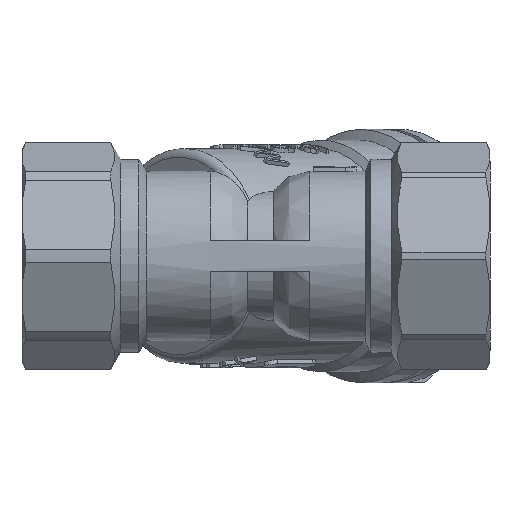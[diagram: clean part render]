
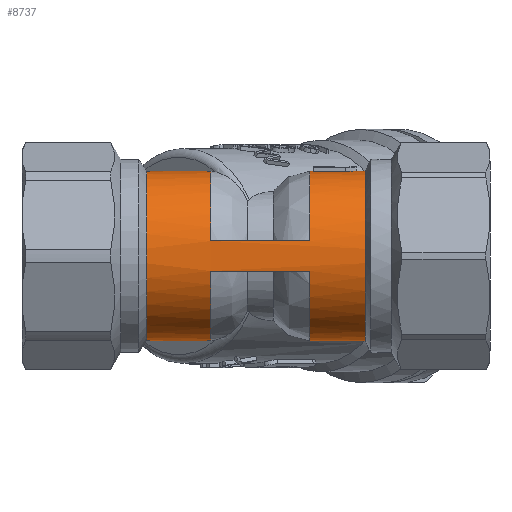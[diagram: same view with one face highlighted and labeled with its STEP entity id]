
A CAD part, front view. The second image highlights one B-rep face of the part: STEP entity #8737.
In plain terms, the highlighted cylindrical face has radius 9.874 mm (diameter 19.749 mm), a partial arc.
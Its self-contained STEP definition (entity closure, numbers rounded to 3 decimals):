
#231=FACE_BOUND('',#1427,.T.);
#257=ELLIPSE('',#9048,13.965,9.874);
#260=ELLIPSE('',#9052,13.965,9.874);
#269=CIRCLE('',#8999,9.874);
#270=CIRCLE('',#9002,9.874);
#271=CIRCLE('',#9004,9.874);
#279=CIRCLE('',#9020,9.874);
#280=CIRCLE('',#9021,9.874);
#283=CIRCLE('',#9025,9.874);
#314=CIRCLE('',#9085,9.874);
#318=CIRCLE('',#9091,9.874);
#319=CIRCLE('',#9092,9.874);
#474=CYLINDRICAL_SURFACE('',#9090,9.874);
#900=FACE_OUTER_BOUND('',#1426,.T.);
#1426=EDGE_LOOP('',(#7237,#7238,#7239,#7240,#7241,#7242,#7243,#7244,#7245,
#7246,#7247,#7248));
#1427=EDGE_LOOP('',(#7249,#7250,#7251,#7252,#7253,#7254,#7255));
#1879=LINE('',#19054,#2271);
#1885=LINE('',#19109,#2277);
#1889=LINE('',#19188,#2281);
#1890=LINE('',#19207,#2282);
#2271=VECTOR('',#9707,10.);
#2277=VECTOR('',#9723,10.);
#2281=VECTOR('',#9751,10.);
#2282=VECTOR('',#9754,10.);
#2493=B_SPLINE_CURVE_WITH_KNOTS('',3,(#11862,#11863,#11864,#11865,#11866,
#11867),.UNSPECIFIED.,.F.,.F.,(4,2,4),(3.197,3.417,
3.977),.UNSPECIFIED.);
#2500=B_SPLINE_CURVE_WITH_KNOTS('',3,(#11905,#11906,#11907,#11908,#11909,
#11910),.UNSPECIFIED.,.F.,.F.,(4,2,4),(1.31,1.87,
2.089),.UNSPECIFIED.);
#2951=B_SPLINE_CURVE_WITH_KNOTS('',3,(#19077,#19078,#19079,#19080),
 .UNSPECIFIED.,.F.,.F.,(4,4),(0.,0.099),
 .UNSPECIFIED.);
#2952=B_SPLINE_CURVE_WITH_KNOTS('',3,(#19099,#19100,#19101,#19102),
 .UNSPECIFIED.,.F.,.F.,(4,4),(0.,0.099),
 .UNSPECIFIED.);
#3209=VERTEX_POINT('',#11850);
#3210=VERTEX_POINT('',#11861);
#3217=VERTEX_POINT('',#11899);
#3218=VERTEX_POINT('',#11904);
#3673=VERTEX_POINT('',#19047);
#3674=VERTEX_POINT('',#19048);
#3675=VERTEX_POINT('',#19053);
#3676=VERTEX_POINT('',#19057);
#3677=VERTEX_POINT('',#19076);
#3678=VERTEX_POINT('',#19098);
#3679=VERTEX_POINT('',#19105);
#3694=VERTEX_POINT('',#19156);
#3696=VERTEX_POINT('',#19173);
#3697=VERTEX_POINT('',#19190);
#3699=VERTEX_POINT('',#19206);
#3701=VERTEX_POINT('',#19234);
#3702=VERTEX_POINT('',#19251);
#3720=VERTEX_POINT('',#19391);
#3725=VERTEX_POINT('',#19409);
#4165=EDGE_CURVE('',#3210,#3209,#2493,.T.);
#4173=EDGE_CURVE('',#3218,#3217,#2500,.T.);
#4851=EDGE_CURVE('',#3673,#3674,#269,.T.);
#4854=EDGE_CURVE('',#3675,#3673,#1879,.T.);
#4856=EDGE_CURVE('',#3676,#3675,#270,.T.);
#4858=EDGE_CURVE('',#3677,#3676,#2951,.T.);
#4860=EDGE_CURVE('',#3678,#3677,#2952,.T.);
#4862=EDGE_CURVE('',#3679,#3678,#271,.T.);
#4864=EDGE_CURVE('',#3674,#3679,#1885,.T.);
#4882=EDGE_CURVE('',#3696,#3694,#1889,.T.);
#4884=EDGE_CURVE('',#3697,#3699,#1890,.T.);
#4889=EDGE_CURVE('',#3697,#3701,#279,.T.);
#4890=EDGE_CURVE('',#3702,#3694,#280,.T.);
#4894=EDGE_CURVE('',#3699,#3209,#283,.T.);
#4920=EDGE_CURVE('',#3720,#3702,#257,.T.);
#4927=EDGE_CURVE('',#3701,#3725,#260,.T.);
#4974=EDGE_CURVE('',#3720,#3725,#314,.T.);
#4981=EDGE_CURVE('',#3218,#3696,#318,.T.);
#4982=EDGE_CURVE('',#3217,#3210,#319,.T.);
#7237=ORIENTED_EDGE('',*,*,#4927,.T.);
#7238=ORIENTED_EDGE('',*,*,#4974,.F.);
#7239=ORIENTED_EDGE('',*,*,#4920,.T.);
#7240=ORIENTED_EDGE('',*,*,#4890,.T.);
#7241=ORIENTED_EDGE('',*,*,#4882,.F.);
#7242=ORIENTED_EDGE('',*,*,#4981,.F.);
#7243=ORIENTED_EDGE('',*,*,#4173,.T.);
#7244=ORIENTED_EDGE('',*,*,#4982,.T.);
#7245=ORIENTED_EDGE('',*,*,#4165,.T.);
#7246=ORIENTED_EDGE('',*,*,#4894,.F.);
#7247=ORIENTED_EDGE('',*,*,#4884,.F.);
#7248=ORIENTED_EDGE('',*,*,#4889,.T.);
#7249=ORIENTED_EDGE('',*,*,#4851,.T.);
#7250=ORIENTED_EDGE('',*,*,#4864,.T.);
#7251=ORIENTED_EDGE('',*,*,#4862,.T.);
#7252=ORIENTED_EDGE('',*,*,#4860,.T.);
#7253=ORIENTED_EDGE('',*,*,#4858,.T.);
#7254=ORIENTED_EDGE('',*,*,#4856,.T.);
#7255=ORIENTED_EDGE('',*,*,#4854,.T.);
#8737=ADVANCED_FACE('',(#900,#231),#474,.T.);
#8999=AXIS2_PLACEMENT_3D('',#19049,#9701,#9702);
#9002=AXIS2_PLACEMENT_3D('',#19058,#9711,#9712);
#9004=AXIS2_PLACEMENT_3D('',#19106,#9718,#9719);
#9020=AXIS2_PLACEMENT_3D('',#19241,#9758,#9759);
#9021=AXIS2_PLACEMENT_3D('',#19252,#9760,#9761);
#9025=AXIS2_PLACEMENT_3D('',#19277,#9768,#9769);
#9048=AXIS2_PLACEMENT_3D('',#19392,#9817,#9818);
#9052=AXIS2_PLACEMENT_3D('',#19413,#9825,#9826);
#9085=AXIS2_PLACEMENT_3D('',#19548,#9899,#9900);
#9090=AXIS2_PLACEMENT_3D('',#19575,#9910,#9911);
#9091=AXIS2_PLACEMENT_3D('',#19576,#9912,#9913);
#9092=AXIS2_PLACEMENT_3D('',#19577,#9914,#9915);
#9701=DIRECTION('center_axis',(-1.,0.,0.));
#9702=DIRECTION('ref_axis',(0.,-1.,0.));
#9707=DIRECTION('',(-1.,0.,0.));
#9711=DIRECTION('center_axis',(-1.,0.,0.));
#9712=DIRECTION('ref_axis',(0.,-1.,0.));
#9718=DIRECTION('center_axis',(-1.,0.,0.));
#9719=DIRECTION('ref_axis',(0.,-1.,0.));
#9723=DIRECTION('',(1.,0.,0.));
#9751=DIRECTION('',(-1.,0.,0.));
#9754=DIRECTION('',(1.,0.,0.));
#9758=DIRECTION('center_axis',(-1.,0.,0.));
#9759=DIRECTION('ref_axis',(0.,0.,1.));
#9760=DIRECTION('center_axis',(-1.,0.,0.));
#9761=DIRECTION('ref_axis',(0.,0.,1.));
#9768=DIRECTION('center_axis',(-1.,0.,0.));
#9769=DIRECTION('ref_axis',(0.,0.,1.));
#9817=DIRECTION('center_axis',(-0.707,-0.707,0.));
#9818=DIRECTION('ref_axis',(0.707,-0.707,0.));
#9825=DIRECTION('center_axis',(-0.707,-0.707,0.));
#9826=DIRECTION('ref_axis',(0.707,-0.707,0.));
#9899=DIRECTION('center_axis',(-1.,0.,0.));
#9900=DIRECTION('ref_axis',(0.,0.,1.));
#9910=DIRECTION('center_axis',(-1.,0.,0.));
#9911=DIRECTION('ref_axis',(0.,-1.,0.));
#9912=DIRECTION('center_axis',(-1.,0.,0.));
#9913=DIRECTION('ref_axis',(0.,0.,1.));
#9914=DIRECTION('center_axis',(-1.,0.,0.));
#9915=DIRECTION('ref_axis',(0.,0.,1.));
#11850=CARTESIAN_POINT('',(-21.,5.268,8.352));
#11861=CARTESIAN_POINT('',(-14.5,8.615,4.826));
#11862=CARTESIAN_POINT('Ctrl Pts',(-14.5,8.615,4.826));
#11863=CARTESIAN_POINT('Ctrl Pts',(-15.064,8.34,5.316));
#11864=CARTESIAN_POINT('Ctrl Pts',(-15.668,8.043,5.746));
#11865=CARTESIAN_POINT('Ctrl Pts',(-17.692,7.034,7.028));
#11866=CARTESIAN_POINT('Ctrl Pts',(-19.33,6.195,7.767));
#11867=CARTESIAN_POINT('Ctrl Pts',(-21.,5.268,8.352));
#11899=CARTESIAN_POINT('',(-14.5,8.615,-4.826));
#11904=CARTESIAN_POINT('',(-21.,5.268,-8.352));
#11905=CARTESIAN_POINT('Ctrl Pts',(-21.,5.268,-8.352));
#11906=CARTESIAN_POINT('Ctrl Pts',(-19.33,6.195,-7.767));
#11907=CARTESIAN_POINT('Ctrl Pts',(-17.692,7.034,-7.028));
#11908=CARTESIAN_POINT('Ctrl Pts',(-15.668,8.043,-5.746));
#11909=CARTESIAN_POINT('Ctrl Pts',(-15.064,8.34,-5.316));
#11910=CARTESIAN_POINT('Ctrl Pts',(-14.5,8.615,-4.826));
#19047=CARTESIAN_POINT('',(-20.556,-0.637,9.854));
#19048=CARTESIAN_POINT('',(-20.556,0.524,9.86));
#19049=CARTESIAN_POINT('Origin',(-20.556,0.,
0.));
#19053=CARTESIAN_POINT('',(-16.806,-0.637,9.854));
#19054=CARTESIAN_POINT('',(-36.25,-0.637,9.854));
#19057=CARTESIAN_POINT('',(-16.806,-1.034,9.82));
#19058=CARTESIAN_POINT('Origin',(-16.806,0.,
0.));
#19076=CARTESIAN_POINT('',(-15.556,-0.056,9.874));
#19077=CARTESIAN_POINT('Ctrl Pts',(-15.556,-0.056,
9.874));
#19078=CARTESIAN_POINT('Ctrl Pts',(-15.973,-0.383,
9.872));
#19079=CARTESIAN_POINT('Ctrl Pts',(-16.389,-0.71,
9.854));
#19080=CARTESIAN_POINT('Ctrl Pts',(-16.806,-1.034,
9.82));
#19098=CARTESIAN_POINT('',(-16.806,0.922,9.831));
#19099=CARTESIAN_POINT('Ctrl Pts',(-16.806,0.922,
9.831));
#19100=CARTESIAN_POINT('Ctrl Pts',(-16.389,0.597,
9.862));
#19101=CARTESIAN_POINT('Ctrl Pts',(-15.973,0.27,
9.876));
#19102=CARTESIAN_POINT('Ctrl Pts',(-15.556,-0.056,
9.874));
#19105=CARTESIAN_POINT('',(-16.806,0.524,9.86));
#19106=CARTESIAN_POINT('Origin',(-16.806,0.,
0.));
#19109=CARTESIAN_POINT('',(-36.25,0.524,9.86));
#19156=CARTESIAN_POINT('',(-32.5,-9.718,-1.753));
#19173=CARTESIAN_POINT('',(-21.,-9.718,-1.753));
#19188=CARTESIAN_POINT('',(-9.921,-9.718,-1.753));
#19190=CARTESIAN_POINT('',(-32.5,-9.719,1.747));
#19206=CARTESIAN_POINT('',(-21.,-9.719,1.747));
#19207=CARTESIAN_POINT('',(-9.921,-9.719,1.747));
#19234=CARTESIAN_POINT('',(-32.5,-0.555,9.859));
#19241=CARTESIAN_POINT('Origin',(-32.5,0.,0.));
#19251=CARTESIAN_POINT('',(-32.5,-0.555,-9.859));
#19252=CARTESIAN_POINT('Origin',(-32.5,0.,0.));
#19277=CARTESIAN_POINT('Origin',(-21.,0.,0.));
#19391=CARTESIAN_POINT('',(-40.,6.944,-7.02));
#19392=CARTESIAN_POINT('Origin',(-33.055,0.,
0.));
#19409=CARTESIAN_POINT('',(-40.,6.944,7.02));
#19413=CARTESIAN_POINT('Origin',(-33.055,0.,
0.));
#19548=CARTESIAN_POINT('Origin',(-40.,0.,0.));
#19575=CARTESIAN_POINT('Origin',(-36.25,0.,0.));
#19576=CARTESIAN_POINT('Origin',(-21.,0.,0.));
#19577=CARTESIAN_POINT('Origin',(-14.5,0.,0.));
